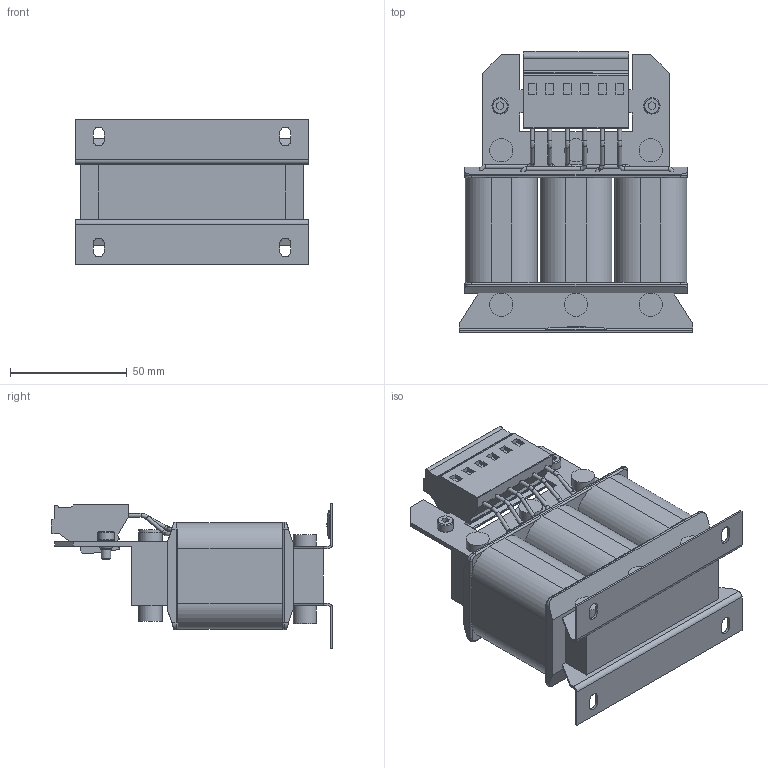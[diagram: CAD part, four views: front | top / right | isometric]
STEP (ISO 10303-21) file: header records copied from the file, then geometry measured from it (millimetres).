
FILE_DESCRIPTION (( 'STEP AP214' ), '1' );
FILE_NAME ('10Z1B03-1000.STEP', '2022-04-05T11:47:08', ( '' ), ( '' ), 'SwSTEP 2.0', 'SolidWorks 2019', '' );
FILE_SCHEMA (( 'AUTOMOTIVE_DESIGN' ));
Length unit declared in the file: millimetre
Products named in the file (1): 10Z1B03-1000
Bounding box: 100 x 120.7 x 62.5 mm (x, y, z)
Volume: 307511 mm3; surface area: 56689.5 mm2
Topology: 1 solids, 1 shells, 390 faces, 1023 edges, 657 vertices
Faces by surface type: plane 222, cylinder 106, torus 34, bspline 24, cone 4
Full cylindrical faces by diameter (mm): 1.7 x18, 4 x4, 4.78 x2, 7 x2, 10 x12
Entity records: 13111 total; most frequent: CARTESIAN_POINT 3781, ORIENTED_EDGE 1880, DIRECTION 1752, EDGE_CURVE 940, VERTEX_POINT 642, AXIS2_PLACEMENT_3D 601, LINE 550, VECTOR 550
